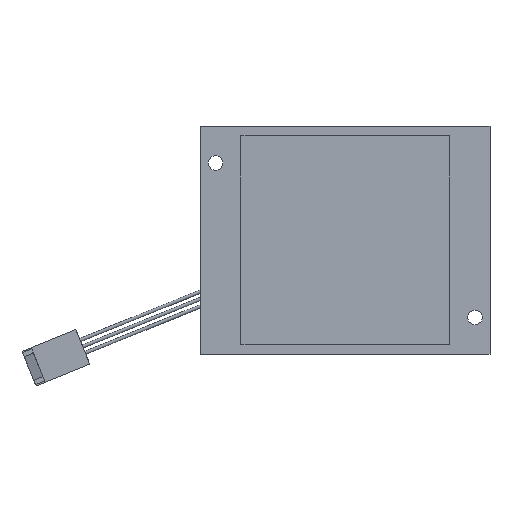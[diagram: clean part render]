
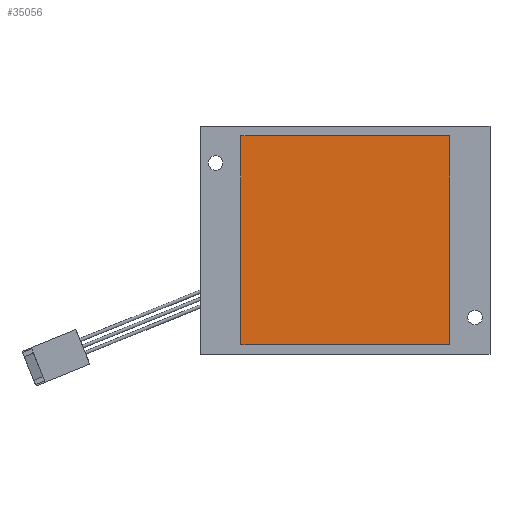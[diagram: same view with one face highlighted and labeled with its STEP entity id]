
A CAD part, front view. The second image highlights one B-rep face of the part: STEP entity #35056.
In plain terms, the highlighted planar face has unit normal (0, -1, 0).
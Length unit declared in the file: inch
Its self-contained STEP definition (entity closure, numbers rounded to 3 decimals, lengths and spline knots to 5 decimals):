
#2194 = DIRECTION ( 'NONE',  ( 1., 0., 0. ) ) ;
#2715 = CARTESIAN_POINT ( 'NONE',  ( -0.89998, -0.00512, -0.90008 ) ) ;
#4196 = CARTESIAN_POINT ( 'NONE',  ( 0.90002, -0.00512, 0.89992 ) ) ;
#9759 = CARTESIAN_POINT ( 'NONE',  ( 0.00002, -0.00512, -0.00008 ) ) ;
#10725 = VECTOR ( 'NONE', #49515, 39.37008 ) ;
#13974 = FACE_OUTER_BOUND ( 'NONE', #25375, .T. ) ;
#14770 = VECTOR ( 'NONE', #2194, 39.37008 ) ;
#15628 = CARTESIAN_POINT ( 'NONE',  ( 0.90002, -0.00512, -0.90008 ) ) ;
#16065 = ORIENTED_EDGE ( 'NONE', *, *, #41251, .F. ) ;
#20361 = ORIENTED_EDGE ( 'NONE', *, *, #55090, .F. ) ;
#22384 = VECTOR ( 'NONE', #38461, 39.37008 ) ;
#24028 = VECTOR ( 'NONE', #44366, 39.37008 ) ;
#25375 = EDGE_LOOP ( 'NONE', ( #39084, #20361, #16065, #55216 ) ) ;
#26924 = DIRECTION ( 'NONE',  ( 0., 1., 0. ) ) ;
#27679 = EDGE_CURVE ( 'NONE', #50098, #47584, #36511, .T. ) ;
#30330 = LINE ( 'NONE', #4196, #22384 ) ;
#31361 = CARTESIAN_POINT ( 'NONE',  ( -0.89998, -0.00512, 0.89992 ) ) ;
#31921 = DIRECTION ( 'NONE',  ( 0., 0., 1. ) ) ;
#32173 = CARTESIAN_POINT ( 'NONE',  ( 0.90002, -0.00512, 0.89992 ) ) ;
#35056 = ADVANCED_FACE ( 'NONE', ( #13974 ), #48818, .F. ) ;
#35430 = AXIS2_PLACEMENT_3D ( 'NONE', #9759, #26924, #31921 ) ;
#36036 = CARTESIAN_POINT ( 'NONE',  ( 0.90002, -0.00512, 0.89992 ) ) ;
#36511 = LINE ( 'NONE', #49441, #24028 ) ;
#38438 = VERTEX_POINT ( 'NONE', #15628 ) ;
#38461 = DIRECTION ( 'NONE',  ( 0., 0., -1. ) ) ;
#39084 = ORIENTED_EDGE ( 'NONE', *, *, #27679, .F. ) ;
#40587 = LINE ( 'NONE', #32173, #14770 ) ;
#41251 = EDGE_CURVE ( 'NONE', #42532, #38438, #30330, .T. ) ;
#42532 = VERTEX_POINT ( 'NONE', #36036 ) ;
#44366 = DIRECTION ( 'NONE',  ( 0., 0., 1. ) ) ;
#45541 = LINE ( 'NONE', #53695, #10725 ) ;
#47584 = VERTEX_POINT ( 'NONE', #31361 ) ;
#47723 = EDGE_CURVE ( 'NONE', #47584, #42532, #40587, .T. ) ;
#48818 = PLANE ( 'NONE',  #35430 ) ;
#49441 = CARTESIAN_POINT ( 'NONE',  ( -0.89998, -0.00512, 0.89992 ) ) ;
#49515 = DIRECTION ( 'NONE',  ( -1., 0., 0. ) ) ;
#50098 = VERTEX_POINT ( 'NONE', #2715 ) ;
#53695 = CARTESIAN_POINT ( 'NONE',  ( 0.90002, -0.00512, -0.90008 ) ) ;
#55090 = EDGE_CURVE ( 'NONE', #38438, #50098, #45541, .T. ) ;
#55216 = ORIENTED_EDGE ( 'NONE', *, *, #47723, .F. ) ;
